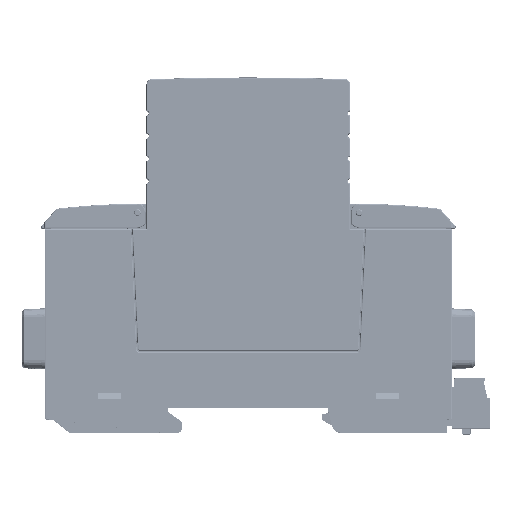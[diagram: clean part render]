
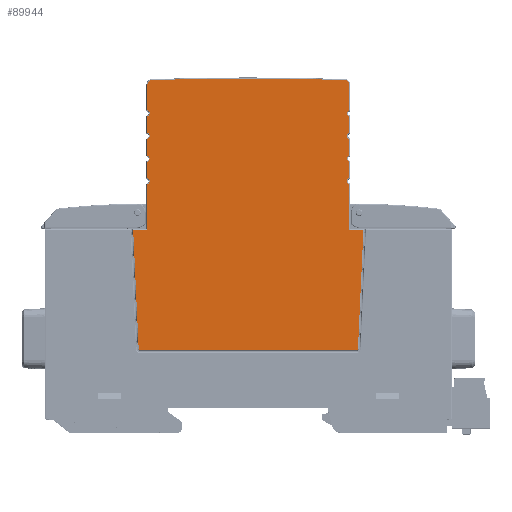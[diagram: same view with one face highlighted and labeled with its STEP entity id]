
A CAD part, top view. The second image highlights one B-rep face of the part: STEP entity #89944.
In plain terms, the highlighted planar face has unit normal (0, 0, 1) as drawn and (0, 0, -1) by its records, which use the part's own axes.
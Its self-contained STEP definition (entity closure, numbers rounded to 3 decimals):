
#3820=CIRCLE('',#97593,0.7);
#3838=CIRCLE('',#97619,599.8);
#3863=CIRCLE('',#97657,1.);
#3869=CIRCLE('',#97668,0.7);
#3880=CIRCLE('',#97688,0.7);
#3889=CIRCLE('',#97705,0.7);
#3932=CIRCLE('',#97820,0.3);
#3935=CIRCLE('',#97825,0.3);
#3972=CIRCLE('',#97977,0.7);
#3981=CIRCLE('',#97994,0.7);
#3992=CIRCLE('',#98014,0.7);
#4001=CIRCLE('',#98031,0.7);
#4011=CIRCLE('',#98048,1.);
#27613=ORIENTED_EDGE('',*,*,#41299,.T.);
#27614=ORIENTED_EDGE('',*,*,#41302,.F.);
#27615=ORIENTED_EDGE('',*,*,#41370,.F.);
#27616=ORIENTED_EDGE('',*,*,#41494,.F.);
#27617=ORIENTED_EDGE('',*,*,#41480,.F.);
#27618=ORIENTED_EDGE('',*,*,#41471,.F.);
#27619=ORIENTED_EDGE('',*,*,#41464,.F.);
#27620=ORIENTED_EDGE('',*,*,#41449,.F.);
#27621=ORIENTED_EDGE('',*,*,#41446,.F.);
#27622=ORIENTED_EDGE('',*,*,#41437,.F.);
#27623=ORIENTED_EDGE('',*,*,#41435,.F.);
#27624=ORIENTED_EDGE('',*,*,#41391,.F.);
#27625=ORIENTED_EDGE('',*,*,#41985,.F.);
#27626=ORIENTED_EDGE('',*,*,#41986,.F.);
#27627=ORIENTED_EDGE('',*,*,#41972,.F.);
#27628=ORIENTED_EDGE('',*,*,#41963,.F.);
#27629=ORIENTED_EDGE('',*,*,#41956,.F.);
#27630=ORIENTED_EDGE('',*,*,#41942,.F.);
#27631=ORIENTED_EDGE('',*,*,#41939,.F.);
#27632=ORIENTED_EDGE('',*,*,#41930,.F.);
#27633=ORIENTED_EDGE('',*,*,#41923,.F.);
#27634=ORIENTED_EDGE('',*,*,#41251,.F.);
#27635=ORIENTED_EDGE('',*,*,#41255,.T.);
#27636=ORIENTED_EDGE('',*,*,#41261,.T.);
#27637=ORIENTED_EDGE('',*,*,#41662,.T.);
#27638=ORIENTED_EDGE('',*,*,#41660,.T.);
#27639=ORIENTED_EDGE('',*,*,#41658,.T.);
#27640=ORIENTED_EDGE('',*,*,#42009,.T.);
#41251=EDGE_CURVE('',#50435,#50436,#60489,.T.);
#41255=EDGE_CURVE('',#50435,#50438,#60491,.T.);
#41261=EDGE_CURVE('',#50438,#50442,#60494,.T.);
#41299=EDGE_CURVE('',#50462,#50468,#60511,.T.);
#41302=EDGE_CURVE('',#50470,#50468,#60513,.T.);
#41370=EDGE_CURVE('',#50514,#50470,#3820,.T.);
#41391=EDGE_CURVE('',#50528,#50529,#3838,.T.);
#41435=EDGE_CURVE('',#50529,#50561,#3863,.T.);
#41437=EDGE_CURVE('',#50561,#50562,#60564,.T.);
#41446=EDGE_CURVE('',#50562,#50566,#3869,.T.);
#41449=EDGE_CURVE('',#50566,#50568,#60569,.T.);
#41464=EDGE_CURVE('',#50568,#50573,#3880,.T.);
#41471=EDGE_CURVE('',#50573,#50576,#60578,.T.);
#41480=EDGE_CURVE('',#50576,#50580,#3889,.T.);
#41494=EDGE_CURVE('',#50580,#50514,#60587,.T.);
#41658=EDGE_CURVE('',#50685,#50686,#3932,.T.);
#41660=EDGE_CURVE('',#50687,#50685,#60708,.T.);
#41662=EDGE_CURVE('',#50442,#50687,#3935,.T.);
#41923=EDGE_CURVE('',#50436,#50835,#3972,.T.);
#41930=EDGE_CURVE('',#50835,#50838,#60920,.T.);
#41939=EDGE_CURVE('',#50838,#50842,#3981,.T.);
#41942=EDGE_CURVE('',#50842,#50844,#60925,.T.);
#41956=EDGE_CURVE('',#50844,#50849,#3992,.T.);
#41963=EDGE_CURVE('',#50849,#50852,#60933,.T.);
#41972=EDGE_CURVE('',#50852,#50856,#4001,.T.);
#41985=EDGE_CURVE('',#50861,#50528,#4011,.T.);
#41986=EDGE_CURVE('',#50856,#50861,#60941,.T.);
#42009=EDGE_CURVE('',#50686,#50462,#60955,.T.);
#50435=VERTEX_POINT('',#154969);
#50436=VERTEX_POINT('',#154971);
#50438=VERTEX_POINT('',#154977);
#50442=VERTEX_POINT('',#154989);
#50462=VERTEX_POINT('',#155064);
#50468=VERTEX_POINT('',#155082);
#50470=VERTEX_POINT('',#155088);
#50514=VERTEX_POINT('',#155283);
#50528=VERTEX_POINT('',#155326);
#50529=VERTEX_POINT('',#155328);
#50561=VERTEX_POINT('',#155427);
#50562=VERTEX_POINT('',#155431);
#50566=VERTEX_POINT('',#155448);
#50568=VERTEX_POINT('',#155454);
#50573=VERTEX_POINT('',#155482);
#50576=VERTEX_POINT('',#155496);
#50580=VERTEX_POINT('',#155513);
#50685=VERTEX_POINT('',#155951);
#50686=VERTEX_POINT('',#155953);
#50687=VERTEX_POINT('',#155957);
#50835=VERTEX_POINT('',#156540);
#50838=VERTEX_POINT('',#156554);
#50842=VERTEX_POINT('',#156571);
#50844=VERTEX_POINT('',#156577);
#50849=VERTEX_POINT('',#156604);
#50852=VERTEX_POINT('',#156618);
#50856=VERTEX_POINT('',#156635);
#50861=VERTEX_POINT('',#156659);
#60489=LINE('',#154970,#70648);
#60491=LINE('',#154979,#70650);
#60494=LINE('',#154990,#70653);
#60511=LINE('',#155083,#70670);
#60513=LINE('',#155089,#70672);
#60564=LINE('',#155430,#70723);
#60569=LINE('',#155453,#70728);
#60578=LINE('',#155495,#70737);
#60587=LINE('',#155539,#70746);
#60708=LINE('',#155958,#70867);
#60920=LINE('',#156553,#71079);
#60925=LINE('',#156576,#71084);
#60933=LINE('',#156617,#71092);
#60941=LINE('',#156662,#71100);
#60955=LINE('',#156725,#71114);
#70648=VECTOR('',#118713,1000.);
#70650=VECTOR('',#118721,1000.);
#70653=VECTOR('',#118734,1000.);
#70670=VECTOR('',#118819,1000.);
#70672=VECTOR('',#118825,1000.);
#70723=VECTOR('',#119116,1000.);
#70728=VECTOR('',#119145,1000.);
#70737=VECTOR('',#119204,1000.);
#70746=VECTOR('',#119265,1000.);
#70867=VECTOR('',#119586,1000.);
#71079=VECTOR('',#120124,1000.);
#71084=VECTOR('',#120153,1000.);
#71092=VECTOR('',#120211,1000.);
#71100=VECTOR('',#120273,1000.);
#71114=VECTOR('',#120345,1000.);
#76566=EDGE_LOOP('',(#27613,#27614,#27615,#27616,#27617,#27618,#27619,#27620,
#27621,#27622,#27623,#27624,#27625,#27626,#27627,#27628,#27629,#27630,#27631,
#27632,#27633,#27634,#27635,#27636,#27637,#27638,#27639,#27640));
#81666=FACE_BOUND('',#76566,.T.);
#85369=PLANE('',#98079);
#89944=ADVANCED_FACE('',(#81666),#85369,.F.);
#97593=AXIS2_PLACEMENT_3D('',#155284,#118963,#118964);
#97619=AXIS2_PLACEMENT_3D('',#155327,#119018,#119019);
#97657=AXIS2_PLACEMENT_3D('',#155426,#119110,#119111);
#97668=AXIS2_PLACEMENT_3D('',#155447,#119137,#119138);
#97688=AXIS2_PLACEMENT_3D('',#155481,#119184,#119185);
#97705=AXIS2_PLACEMENT_3D('',#155512,#119225,#119226);
#97820=AXIS2_PLACEMENT_3D('',#155954,#119580,#119581);
#97825=AXIS2_PLACEMENT_3D('',#155961,#119591,#119592);
#97977=AXIS2_PLACEMENT_3D('',#156539,#120104,#120105);
#97994=AXIS2_PLACEMENT_3D('',#156570,#120145,#120146);
#98014=AXIS2_PLACEMENT_3D('',#156603,#120191,#120192);
#98031=AXIS2_PLACEMENT_3D('',#156634,#120232,#120233);
#98048=AXIS2_PLACEMENT_3D('',#156660,#120269,#120270);
#98079=AXIS2_PLACEMENT_3D('',#156726,#120346,#120347);
#118713=DIRECTION('',(0.,1.,0.));
#118721=DIRECTION('',(1.,0.,0.));
#118734=DIRECTION('',(-0.046,-0.999,0.));
#118819=DIRECTION('',(1.,0.,0.));
#118825=DIRECTION('',(0.,-1.,0.));
#118963=DIRECTION('',(0.,0.,-1.));
#118964=DIRECTION('',(0.286,0.958,0.));
#119018=DIRECTION('',(0.,0.,1.));
#119019=DIRECTION('',(0.036,0.999,0.));
#119110=DIRECTION('',(0.,0.,1.));
#119111=DIRECTION('',(-0.036,0.999,0.));
#119116=DIRECTION('',(0.,-1.,0.));
#119137=DIRECTION('',(0.,0.,-1.));
#119138=DIRECTION('',(0.286,0.958,0.));
#119145=DIRECTION('',(0.,-1.,0.));
#119184=DIRECTION('',(0.,0.,-1.));
#119185=DIRECTION('',(0.286,0.958,0.));
#119204=DIRECTION('',(0.,-1.,0.));
#119225=DIRECTION('',(0.,0.,-1.));
#119226=DIRECTION('',(0.286,0.958,0.));
#119265=DIRECTION('',(0.,-1.,0.));
#119580=DIRECTION('',(0.,0.,-1.));
#119581=DIRECTION('',(0.,-1.,0.));
#119586=DIRECTION('',(-1.,0.,0.));
#119591=DIRECTION('',(0.,0.,-1.));
#119592=DIRECTION('',(0.999,-0.046,0.));
#120104=DIRECTION('',(0.,0.,-1.));
#120105=DIRECTION('',(-0.286,-0.958,0.));
#120124=DIRECTION('',(0.,1.,0.));
#120145=DIRECTION('',(0.,0.,-1.));
#120146=DIRECTION('',(-0.286,-0.958,0.));
#120153=DIRECTION('',(0.,1.,0.));
#120191=DIRECTION('',(0.,0.,-1.));
#120192=DIRECTION('',(-0.286,-0.958,0.));
#120211=DIRECTION('',(0.,1.,0.));
#120232=DIRECTION('',(0.,0.,-1.));
#120233=DIRECTION('',(-0.286,-0.958,0.));
#120269=DIRECTION('',(0.,0.,1.));
#120270=DIRECTION('',(1.,0.,0.));
#120273=DIRECTION('',(0.,1.,0.));
#120345=DIRECTION('',(-0.046,0.999,0.));
#120346=DIRECTION('',(0.,0.,1.));
#120347=DIRECTION('',(1.,0.,0.));
#154969=CARTESIAN_POINT('',(22.3,25.72,-8.9));
#154970=CARTESIAN_POINT('',(22.3,25.72,-8.9));
#154971=CARTESIAN_POINT('',(22.3,35.829,-8.9));
#154977=CARTESIAN_POINT('',(25.433,25.72,-8.9));
#154979=CARTESIAN_POINT('',(22.3,25.72,-8.9));
#154989=CARTESIAN_POINT('',(24.222,-0.514,-8.9));
#154990=CARTESIAN_POINT('',(25.433,25.72,-8.9));
#155064=CARTESIAN_POINT('',(-25.433,25.72,-8.9));
#155082=CARTESIAN_POINT('',(-22.3,25.72,-8.9));
#155083=CARTESIAN_POINT('',(-25.433,25.72,-8.9));
#155088=CARTESIAN_POINT('',(-22.3,35.829,-8.9));
#155089=CARTESIAN_POINT('',(-22.3,35.829,-8.9));
#155283=CARTESIAN_POINT('',(-22.3,37.171,-8.9));
#155284=CARTESIAN_POINT('',(-22.5,36.5,-8.9));
#155326=CARTESIAN_POINT('',(21.336,58.842,-8.9));
#155327=CARTESIAN_POINT('',(0.,-540.578,-8.9));
#155328=CARTESIAN_POINT('',(-21.336,58.842,-8.9));
#155426=CARTESIAN_POINT('',(-21.3,57.843,-8.9));
#155427=CARTESIAN_POINT('',(-22.3,57.843,-8.9));
#155430=CARTESIAN_POINT('',(-22.3,57.843,-8.9));
#155431=CARTESIAN_POINT('',(-22.3,52.171,-8.9));
#155447=CARTESIAN_POINT('',(-22.5,51.5,-8.9));
#155448=CARTESIAN_POINT('',(-22.3,50.829,-8.9));
#155453=CARTESIAN_POINT('',(-22.3,50.829,-8.9));
#155454=CARTESIAN_POINT('',(-22.3,47.171,-8.9));
#155481=CARTESIAN_POINT('',(-22.5,46.5,-8.9));
#155482=CARTESIAN_POINT('',(-22.3,45.829,-8.9));
#155495=CARTESIAN_POINT('',(-22.3,45.829,-8.9));
#155496=CARTESIAN_POINT('',(-22.3,42.171,-8.9));
#155512=CARTESIAN_POINT('',(-22.5,41.5,-8.9));
#155513=CARTESIAN_POINT('',(-22.3,40.829,-8.9));
#155539=CARTESIAN_POINT('',(-22.3,40.829,-8.9));
#155951=CARTESIAN_POINT('',(-23.923,-0.8,-8.9));
#155953=CARTESIAN_POINT('',(-24.222,-0.514,-8.9));
#155954=CARTESIAN_POINT('',(-23.923,-0.5,-8.9));
#155957=CARTESIAN_POINT('',(23.923,-0.8,-8.9));
#155958=CARTESIAN_POINT('',(23.923,-0.8,-8.9));
#155961=CARTESIAN_POINT('',(23.923,-0.5,-8.9));
#156539=CARTESIAN_POINT('',(22.5,36.5,-8.9));
#156540=CARTESIAN_POINT('',(22.3,37.171,-8.9));
#156553=CARTESIAN_POINT('',(22.3,37.171,-8.9));
#156554=CARTESIAN_POINT('',(22.3,40.829,-8.9));
#156570=CARTESIAN_POINT('',(22.5,41.5,-8.9));
#156571=CARTESIAN_POINT('',(22.3,42.171,-8.9));
#156576=CARTESIAN_POINT('',(22.3,42.171,-8.9));
#156577=CARTESIAN_POINT('',(22.3,45.829,-8.9));
#156603=CARTESIAN_POINT('',(22.5,46.5,-8.9));
#156604=CARTESIAN_POINT('',(22.3,47.171,-8.9));
#156617=CARTESIAN_POINT('',(22.3,47.171,-8.9));
#156618=CARTESIAN_POINT('',(22.3,50.829,-8.9));
#156634=CARTESIAN_POINT('',(22.5,51.5,-8.9));
#156635=CARTESIAN_POINT('',(22.3,52.171,-8.9));
#156659=CARTESIAN_POINT('',(22.3,57.843,-8.9));
#156660=CARTESIAN_POINT('',(21.3,57.843,-8.9));
#156662=CARTESIAN_POINT('',(22.3,52.171,-8.9));
#156725=CARTESIAN_POINT('',(-24.222,-0.514,-8.9));
#156726=CARTESIAN_POINT('',(0.,0.,-8.9));
